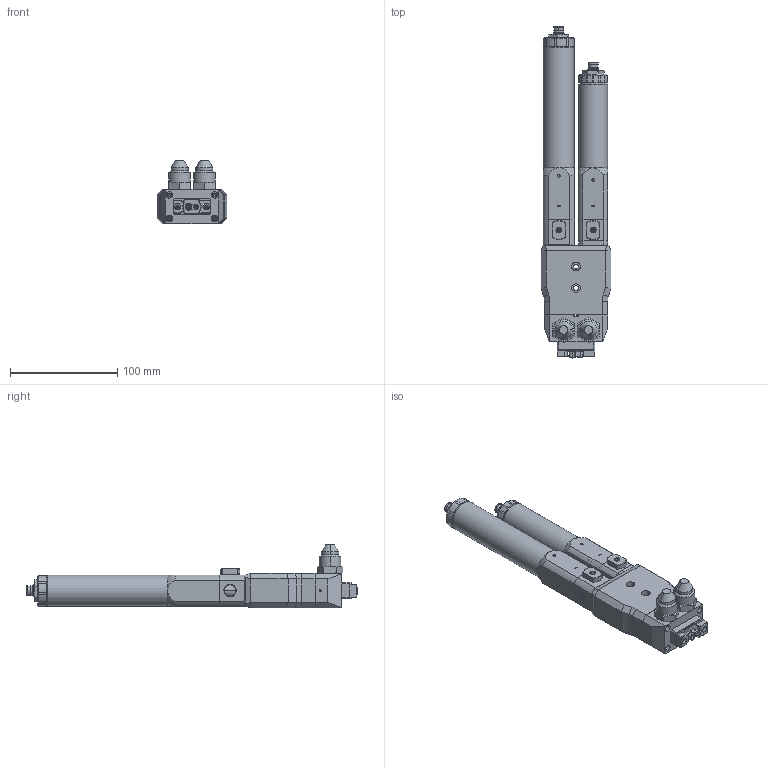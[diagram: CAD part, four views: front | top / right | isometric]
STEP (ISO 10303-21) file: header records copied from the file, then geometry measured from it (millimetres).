
FILE_DESCRIPTION (( 'STEP AP214' ), '1' );
FILE_NAME ('PDP-500-050BB.STEP', '2024-10-11T12:10:26', ( '' ), ( '' ), 'SwSTEP 2.0', 'SolidWorks 2024', '' );
FILE_SCHEMA (( 'AUTOMOTIVE_DESIGN' ));
Length unit declared in the file: millimetre
Products named in the file (1): PDP-500-050BB
Bounding box: 65 x 309 x 59.3 mm (x, y, z)
Volume: 417285.9 mm3; surface area: 101707.7 mm2
Topology: 13 solids, 13 shells, 1388 faces, 3434 edges, 2162 vertices
Faces by surface type: cylinder 532, plane 507, cone 303, bspline 30, torus 8, sphere 8
Full cylindrical faces by diameter (mm): 27 x1, 29 x1
Entity records: 68236 total; most frequent: CARTESIAN_POINT 35984, ORIENTED_EDGE 6782, DIRECTION 6564, EDGE_CURVE 3391, AXIS2_PLACEMENT_3D 2563, VERTEX_POINT 2161, EDGE_LOOP 1564, LINE 1438
